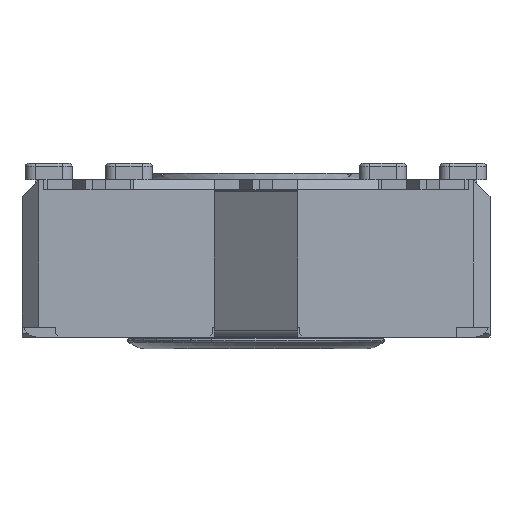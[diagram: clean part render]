
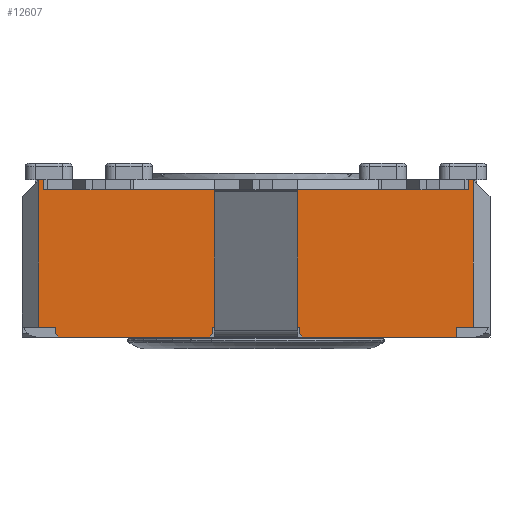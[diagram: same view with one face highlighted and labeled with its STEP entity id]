
A CAD part, front view. The second image highlights one B-rep face of the part: STEP entity #12607.
In plain terms, the highlighted planar face has unit normal (0, -1, 0).
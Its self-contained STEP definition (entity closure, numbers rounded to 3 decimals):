
#951=FACE_OUTER_BOUND('',#1626,.T.);
#1626=EDGE_LOOP('',(#9831,#9832,#9833,#9834,#9835,#9836,#9837,#9838,#9839,
#9840,#9841,#9842,#9843,#9844,#9845,#9846,#9847,#9848,#9849,#9850,#9851,
#9852,#9853,#9854,#9855,#9856,#9857));
#2022=LINE('',#17589,#3479);
#2024=LINE('',#17594,#3481);
#2091=LINE('',#17746,#3548);
#2129=LINE('',#17847,#3586);
#2134=LINE('',#17857,#3591);
#2196=LINE('',#17988,#3653);
#2203=LINE('',#18005,#3660);
#2332=LINE('',#18409,#3789);
#2347=LINE('',#18438,#3804);
#2415=LINE('',#18590,#3872);
#2423=LINE('',#18603,#3880);
#2539=LINE('',#18977,#3996);
#2746=LINE('',#19501,#4203);
#2751=LINE('',#19510,#4208);
#2754=LINE('',#19515,#4211);
#2841=LINE('',#19792,#4298);
#2849=LINE('',#19810,#4306);
#2855=LINE('',#19818,#4312);
#2856=LINE('',#19821,#4313);
#2857=LINE('',#19823,#4314);
#2858=LINE('',#19825,#4315);
#2859=LINE('',#19826,#4316);
#2860=LINE('',#19827,#4317);
#2861=LINE('',#19828,#4318);
#2862=LINE('',#19829,#4319);
#2863=LINE('',#19830,#4320);
#2864=LINE('',#19831,#4321);
#3479=VECTOR('',#14091,10.);
#3481=VECTOR('',#14095,10.);
#3548=VECTOR('',#14206,10.);
#3586=VECTOR('',#14282,10.);
#3591=VECTOR('',#14287,10.);
#3653=VECTOR('',#14399,10.);
#3660=VECTOR('',#14412,10.);
#3789=VECTOR('',#14837,10.);
#3804=VECTOR('',#14866,10.);
#3872=VECTOR('',#15016,10.);
#3880=VECTOR('',#15026,10.);
#3996=VECTOR('',#15294,10.);
#4203=VECTOR('',#15643,10.);
#4208=VECTOR('',#15648,10.);
#4211=VECTOR('',#15653,10.);
#4298=VECTOR('',#15878,10.);
#4306=VECTOR('',#15890,10.);
#4312=VECTOR('',#15900,10.);
#4313=VECTOR('',#15903,10.);
#4314=VECTOR('',#15904,10.);
#4315=VECTOR('',#15905,10.);
#4316=VECTOR('',#15906,10.);
#4317=VECTOR('',#15907,10.);
#4318=VECTOR('',#15908,10.);
#4319=VECTOR('',#15909,10.);
#4320=VECTOR('',#15910,10.);
#4321=VECTOR('',#15911,10.);
#4915=VERTEX_POINT('',#17577);
#4919=VERTEX_POINT('',#17587);
#4920=VERTEX_POINT('',#17591);
#4921=VERTEX_POINT('',#17593);
#4934=VERTEX_POINT('',#17625);
#4984=VERTEX_POINT('',#17745);
#5028=VERTEX_POINT('',#17846);
#5032=VERTEX_POINT('',#17854);
#5033=VERTEX_POINT('',#17856);
#5077=VERTEX_POINT('',#17986);
#5084=VERTEX_POINT('',#18004);
#5210=VERTEX_POINT('',#18406);
#5211=VERTEX_POINT('',#18408);
#5217=VERTEX_POINT('',#18435);
#5218=VERTEX_POINT('',#18437);
#5261=VERTEX_POINT('',#18589);
#5265=VERTEX_POINT('',#18601);
#5386=VERTEX_POINT('',#18973);
#5537=VERTEX_POINT('',#19500);
#5541=VERTEX_POINT('',#19508);
#5594=VERTEX_POINT('',#19790);
#5595=VERTEX_POINT('',#19791);
#5602=VERTEX_POINT('',#19808);
#5603=VERTEX_POINT('',#19809);
#5604=VERTEX_POINT('',#19820);
#5605=VERTEX_POINT('',#19822);
#5606=VERTEX_POINT('',#19824);
#6129=EDGE_CURVE('',#4915,#4919,#2022,.T.);
#6131=EDGE_CURVE('',#4921,#4920,#2024,.T.);
#6207=EDGE_CURVE('',#4984,#4934,#2091,.T.);
#6257=EDGE_CURVE('',#5028,#4984,#2129,.T.);
#6262=EDGE_CURVE('',#5033,#5032,#2134,.T.);
#6329=EDGE_CURVE('',#4920,#5077,#2196,.T.);
#6337=EDGE_CURVE('',#5084,#4921,#2203,.T.);
#6540=EDGE_CURVE('',#5211,#5210,#2332,.T.);
#6555=EDGE_CURVE('',#5218,#5217,#2347,.T.);
#6632=EDGE_CURVE('',#5261,#4915,#2415,.T.);
#6640=EDGE_CURVE('',#4919,#5265,#2423,.T.);
#6795=EDGE_CURVE('',#5218,#5386,#2539,.T.);
#7023=EDGE_CURVE('',#5537,#5386,#2746,.T.);
#7028=EDGE_CURVE('',#4934,#5541,#2751,.T.);
#7031=EDGE_CURVE('',#5033,#5210,#2754,.T.);
#7137=EDGE_CURVE('',#5594,#5595,#2841,.T.);
#7145=EDGE_CURVE('',#5602,#5603,#2849,.T.);
#7151=EDGE_CURVE('',#5028,#5594,#2855,.T.);
#7152=EDGE_CURVE('',#5541,#5604,#2856,.T.);
#7153=EDGE_CURVE('',#5605,#5604,#2857,.T.);
#7154=EDGE_CURVE('',#5605,#5606,#2858,.T.);
#7155=EDGE_CURVE('',#5606,#5537,#2859,.T.);
#7156=EDGE_CURVE('',#5217,#5261,#2860,.T.);
#7157=EDGE_CURVE('',#5084,#5265,#2861,.T.);
#7158=EDGE_CURVE('',#5077,#5211,#2862,.T.);
#7159=EDGE_CURVE('',#5032,#5603,#2863,.T.);
#7160=EDGE_CURVE('',#5602,#5595,#2864,.T.);
#9831=ORIENTED_EDGE('',*,*,#7137,.F.);
#9832=ORIENTED_EDGE('',*,*,#7151,.F.);
#9833=ORIENTED_EDGE('',*,*,#6257,.T.);
#9834=ORIENTED_EDGE('',*,*,#6207,.T.);
#9835=ORIENTED_EDGE('',*,*,#7028,.T.);
#9836=ORIENTED_EDGE('',*,*,#7152,.T.);
#9837=ORIENTED_EDGE('',*,*,#7153,.F.);
#9838=ORIENTED_EDGE('',*,*,#7154,.T.);
#9839=ORIENTED_EDGE('',*,*,#7155,.T.);
#9840=ORIENTED_EDGE('',*,*,#7023,.T.);
#9841=ORIENTED_EDGE('',*,*,#6795,.F.);
#9842=ORIENTED_EDGE('',*,*,#6555,.T.);
#9843=ORIENTED_EDGE('',*,*,#7156,.T.);
#9844=ORIENTED_EDGE('',*,*,#6632,.T.);
#9845=ORIENTED_EDGE('',*,*,#6129,.T.);
#9846=ORIENTED_EDGE('',*,*,#6640,.T.);
#9847=ORIENTED_EDGE('',*,*,#7157,.F.);
#9848=ORIENTED_EDGE('',*,*,#6337,.T.);
#9849=ORIENTED_EDGE('',*,*,#6131,.T.);
#9850=ORIENTED_EDGE('',*,*,#6329,.T.);
#9851=ORIENTED_EDGE('',*,*,#7158,.T.);
#9852=ORIENTED_EDGE('',*,*,#6540,.T.);
#9853=ORIENTED_EDGE('',*,*,#7031,.F.);
#9854=ORIENTED_EDGE('',*,*,#6262,.T.);
#9855=ORIENTED_EDGE('',*,*,#7159,.T.);
#9856=ORIENTED_EDGE('',*,*,#7145,.F.);
#9857=ORIENTED_EDGE('',*,*,#7160,.T.);
#11817=PLANE('',#13455);
#12607=ADVANCED_FACE('',(#951),#11817,.T.);
#13455=AXIS2_PLACEMENT_3D('',#19819,#15901,#15902);
#14091=DIRECTION('',(-1.,0.,0.));
#14095=DIRECTION('',(-1.,0.,0.));
#14206=DIRECTION('',(1.,0.,0.));
#14282=DIRECTION('',(1.,0.,0.));
#14287=DIRECTION('',(1.,0.,0.));
#14399=DIRECTION('',(-1.,0.,0.));
#14412=DIRECTION('',(-1.,0.,0.));
#14837=DIRECTION('',(-1.,0.,0.));
#14866=DIRECTION('',(-1.,0.,0.));
#15016=DIRECTION('',(-1.,0.,0.));
#15026=DIRECTION('',(-1.,0.,0.));
#15294=DIRECTION('',(0.,0.,-1.));
#15643=DIRECTION('',(1.,0.,0.));
#15648=DIRECTION('',(1.,0.,0.));
#15653=DIRECTION('',(0.,0.,1.));
#15878=DIRECTION('',(-0.707,0.,-0.707));
#15890=DIRECTION('',(-0.707,0.,0.707));
#15900=DIRECTION('',(0.,0.,-1.));
#15901=DIRECTION('center_axis',(0.,-1.,0.));
#15902=DIRECTION('ref_axis',(0.,0.,-1.));
#15903=DIRECTION('',(0.,0.,-1.));
#15904=DIRECTION('',(-0.707,0.,0.707));
#15905=DIRECTION('',(1.,0.,0.));
#15906=DIRECTION('',(0.,0.,1.));
#15907=DIRECTION('',(0.,0.,-1.));
#15908=DIRECTION('',(1.,0.,0.));
#15909=DIRECTION('',(0.,0.,1.));
#15910=DIRECTION('',(0.,0.,-1.));
#15911=DIRECTION('',(1.,0.,0.));
#17577=CARTESIAN_POINT('',(-1.217,-9.898,4.1));
#17587=CARTESIAN_POINT('',(-3.717,-9.898,4.1));
#17589=CARTESIAN_POINT('',(-1.862,-9.898,4.1));
#17591=CARTESIAN_POINT('',(-13.717,-9.898,4.1));
#17593=CARTESIAN_POINT('',(-11.217,-9.898,4.1));
#17594=CARTESIAN_POINT('',(-3.944,-9.898,4.1));
#17625=CARTESIAN_POINT('',(-6.217,-9.898,0.));
#17745=CARTESIAN_POINT('',(-8.717,-9.898,0.));
#17746=CARTESIAN_POINT('',(-14.467,-9.898,0.));
#17846=CARTESIAN_POINT('',(-8.767,-9.898,0.));
#17847=CARTESIAN_POINT('',(-14.467,-9.898,0.));
#17854=CARTESIAN_POINT('',(-13.467,-9.898,0.));
#17856=CARTESIAN_POINT('',(-13.967,-9.898,0.));
#17857=CARTESIAN_POINT('',(-7.245,-9.898,0.));
#17986=CARTESIAN_POINT('',(-13.817,-9.898,4.1));
#17988=CARTESIAN_POINT('',(-3.944,-9.898,4.1));
#18004=CARTESIAN_POINT('',(-11.117,-9.898,4.1));
#18005=CARTESIAN_POINT('',(-3.944,-9.898,4.1));
#18406=CARTESIAN_POINT('',(-13.967,-9.898,4.4));
#18408=CARTESIAN_POINT('',(-13.817,-9.898,4.4));
#18409=CARTESIAN_POINT('',(-14.467,-9.898,4.4));
#18435=CARTESIAN_POINT('',(-1.117,-9.898,4.4));
#18437=CARTESIAN_POINT('',(-0.967,-9.898,4.4));
#18438=CARTESIAN_POINT('',(-14.467,-9.898,4.4));
#18589=CARTESIAN_POINT('',(-1.117,-9.898,4.1));
#18590=CARTESIAN_POINT('',(-1.862,-9.898,4.1));
#18601=CARTESIAN_POINT('',(-3.817,-9.898,4.1));
#18603=CARTESIAN_POINT('',(-1.862,-9.898,4.1));
#18973=CARTESIAN_POINT('',(-0.967,-9.898,0.));
#18977=CARTESIAN_POINT('',(-0.967,-9.898,0.));
#19500=CARTESIAN_POINT('',(-1.467,-9.898,0.));
#19501=CARTESIAN_POINT('',(-0.646,-9.898,0.));
#19508=CARTESIAN_POINT('',(-6.167,-9.898,0.));
#19510=CARTESIAN_POINT('',(-14.467,-9.898,0.));
#19515=CARTESIAN_POINT('',(-13.967,-9.898,0.));
#19790=CARTESIAN_POINT('',(-8.767,-9.898,-0.2));
#19791=CARTESIAN_POINT('',(-8.867,-9.898,-0.3));
#19792=CARTESIAN_POINT('',(-6.667,-9.898,1.9));
#19808=CARTESIAN_POINT('',(-13.367,-9.898,-0.3));
#19809=CARTESIAN_POINT('',(-13.467,-9.898,-0.2));
#19810=CARTESIAN_POINT('',(-10.242,-9.898,-3.425));
#19818=CARTESIAN_POINT('',(-8.767,-9.898,0.));
#19819=CARTESIAN_POINT('Origin',(-0.467,-9.898,0.));
#19820=CARTESIAN_POINT('',(-6.167,-9.898,-0.2));
#19821=CARTESIAN_POINT('',(-6.167,-9.898,0.));
#19822=CARTESIAN_POINT('',(-6.067,-9.898,-0.3));
#19823=CARTESIAN_POINT('',(-4.767,-9.898,-1.6));
#19824=CARTESIAN_POINT('',(-1.467,-9.898,-0.3));
#19825=CARTESIAN_POINT('',(-0.467,-9.898,-0.3));
#19826=CARTESIAN_POINT('',(-1.467,-9.898,-0.15));
#19827=CARTESIAN_POINT('',(-1.117,-9.898,2.2));
#19828=CARTESIAN_POINT('',(-3.967,-9.898,4.1));
#19829=CARTESIAN_POINT('',(-13.817,-9.898,2.2));
#19830=CARTESIAN_POINT('',(-13.467,-9.898,-0.15));
#19831=CARTESIAN_POINT('',(-0.467,-9.898,-0.3));
